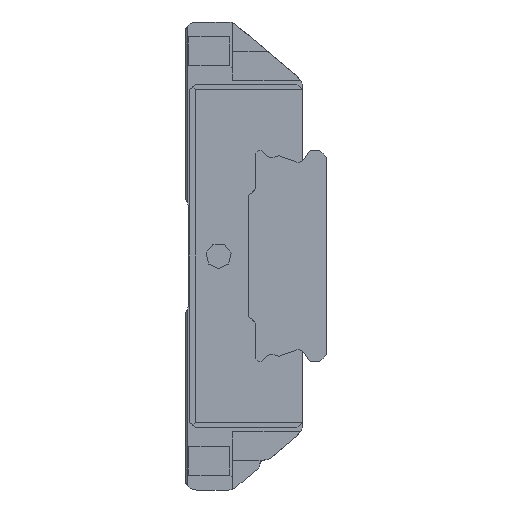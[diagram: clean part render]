
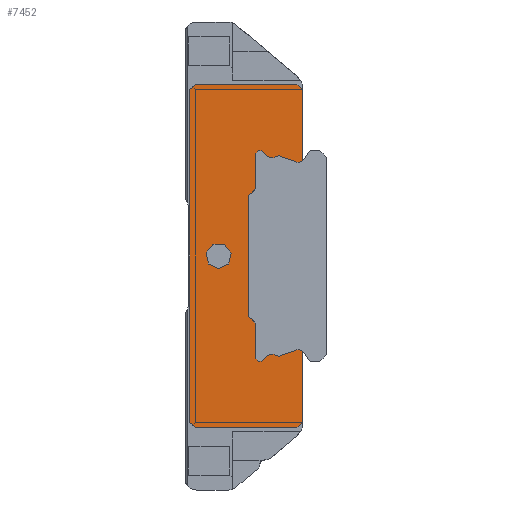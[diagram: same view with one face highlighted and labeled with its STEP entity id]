
A CAD part, left-side view. The second image highlights one B-rep face of the part: STEP entity #7452.
In plain terms, the highlighted planar face has unit normal (-1, 0, 0).
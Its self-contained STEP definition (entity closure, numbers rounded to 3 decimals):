
#447=CIRCLE('',#8390,1.1);
#448=CIRCLE('',#8391,0.5);
#449=CIRCLE('',#8392,0.5);
#450=CIRCLE('',#8393,0.818);
#451=CIRCLE('',#8394,0.2);
#452=CIRCLE('',#8395,0.818);
#453=CIRCLE('',#8396,0.1);
#454=CIRCLE('',#8397,0.1);
#455=CIRCLE('',#8398,0.818);
#456=CIRCLE('',#8399,0.2);
#457=CIRCLE('',#8400,0.818);
#2443=ORIENTED_EDGE('',*,*,#3511,.T.);
#2444=ORIENTED_EDGE('',*,*,#3512,.T.);
#2445=ORIENTED_EDGE('',*,*,#3513,.F.);
#2446=ORIENTED_EDGE('',*,*,#3353,.F.);
#2447=ORIENTED_EDGE('',*,*,#3320,.F.);
#2448=ORIENTED_EDGE('',*,*,#3315,.F.);
#2449=ORIENTED_EDGE('',*,*,#3352,.F.);
#2450=ORIENTED_EDGE('',*,*,#3349,.F.);
#2451=ORIENTED_EDGE('',*,*,#3346,.F.);
#2452=ORIENTED_EDGE('',*,*,#3330,.F.);
#2453=ORIENTED_EDGE('',*,*,#3324,.F.);
#2454=ORIENTED_EDGE('',*,*,#3454,.F.);
#2455=ORIENTED_EDGE('',*,*,#3514,.F.);
#2456=ORIENTED_EDGE('',*,*,#3515,.T.);
#2457=ORIENTED_EDGE('',*,*,#3516,.F.);
#2458=ORIENTED_EDGE('',*,*,#3517,.T.);
#2459=ORIENTED_EDGE('',*,*,#3518,.T.);
#2460=ORIENTED_EDGE('',*,*,#3519,.T.);
#2461=ORIENTED_EDGE('',*,*,#3520,.T.);
#2462=ORIENTED_EDGE('',*,*,#3521,.F.);
#2463=ORIENTED_EDGE('',*,*,#3522,.T.);
#2464=ORIENTED_EDGE('',*,*,#3523,.T.);
#2465=ORIENTED_EDGE('',*,*,#3524,.T.);
#2466=ORIENTED_EDGE('',*,*,#3525,.F.);
#2467=ORIENTED_EDGE('',*,*,#3526,.T.);
#2468=ORIENTED_EDGE('',*,*,#3527,.T.);
#2469=ORIENTED_EDGE('',*,*,#3528,.T.);
#2470=ORIENTED_EDGE('',*,*,#3529,.T.);
#2471=ORIENTED_EDGE('',*,*,#3530,.F.);
#3315=EDGE_CURVE('',#4132,#4133,#4567,.T.);
#3320=EDGE_CURVE('',#4133,#4135,#4572,.T.);
#3324=EDGE_CURVE('',#4138,#4139,#4576,.T.);
#3330=EDGE_CURVE('',#4139,#4142,#4582,.T.);
#3346=EDGE_CURVE('',#4142,#4150,#4598,.T.);
#3349=EDGE_CURVE('',#4150,#4152,#4601,.T.);
#3352=EDGE_CURVE('',#4152,#4132,#4604,.T.);
#3353=EDGE_CURVE('',#4135,#4153,#4605,.T.);
#3454=EDGE_CURVE('',#4229,#4138,#4654,.T.);
#3511=EDGE_CURVE('',#4255,#4255,#447,.T.);
#3512=EDGE_CURVE('',#4256,#4257,#4689,.T.);
#3513=EDGE_CURVE('',#4153,#4257,#448,.T.);
#3514=EDGE_CURVE('',#4258,#4229,#449,.T.);
#3515=EDGE_CURVE('',#4258,#4259,#4690,.T.);
#3516=EDGE_CURVE('',#4260,#4259,#450,.T.);
#3517=EDGE_CURVE('',#4260,#4261,#451,.T.);
#3518=EDGE_CURVE('',#4261,#4262,#4691,.T.);
#3519=EDGE_CURVE('',#4262,#4263,#4692,.T.);
#3520=EDGE_CURVE('',#4263,#4264,#4693,.T.);
#3521=EDGE_CURVE('',#4265,#4264,#452,.T.);
#3522=EDGE_CURVE('',#4265,#4266,#453,.T.);
#3523=EDGE_CURVE('',#4266,#4267,#4694,.T.);
#3524=EDGE_CURVE('',#4267,#4268,#454,.T.);
#3525=EDGE_CURVE('',#4269,#4268,#455,.T.);
#3526=EDGE_CURVE('',#4269,#4270,#4695,.T.);
#3527=EDGE_CURVE('',#4270,#4271,#4696,.T.);
#3528=EDGE_CURVE('',#4271,#4272,#4697,.T.);
#3529=EDGE_CURVE('',#4272,#4273,#456,.T.);
#3530=EDGE_CURVE('',#4256,#4273,#457,.T.);
#4132=VERTEX_POINT('',#12318);
#4133=VERTEX_POINT('',#12320);
#4135=VERTEX_POINT('',#12329);
#4138=VERTEX_POINT('',#12336);
#4139=VERTEX_POINT('',#12338);
#4142=VERTEX_POINT('',#12349);
#4150=VERTEX_POINT('',#12380);
#4152=VERTEX_POINT('',#12386);
#4153=VERTEX_POINT('',#12394);
#4229=VERTEX_POINT('',#12643);
#4255=VERTEX_POINT('',#12785);
#4256=VERTEX_POINT('',#12787);
#4257=VERTEX_POINT('',#12788);
#4258=VERTEX_POINT('',#12791);
#4259=VERTEX_POINT('',#12793);
#4260=VERTEX_POINT('',#12795);
#4261=VERTEX_POINT('',#12797);
#4262=VERTEX_POINT('',#12799);
#4263=VERTEX_POINT('',#12801);
#4264=VERTEX_POINT('',#12803);
#4265=VERTEX_POINT('',#12805);
#4266=VERTEX_POINT('',#12807);
#4267=VERTEX_POINT('',#12809);
#4268=VERTEX_POINT('',#12811);
#4269=VERTEX_POINT('',#12813);
#4270=VERTEX_POINT('',#12815);
#4271=VERTEX_POINT('',#12817);
#4272=VERTEX_POINT('',#12819);
#4273=VERTEX_POINT('',#12821);
#4567=LINE('',#12319,#5001);
#4572=LINE('',#12328,#5006);
#4576=LINE('',#12337,#5010);
#4582=LINE('',#12348,#5016);
#4598=LINE('',#12379,#5032);
#4601=LINE('',#12385,#5035);
#4604=LINE('',#12391,#5038);
#4605=LINE('',#12393,#5039);
#4654=LINE('',#12644,#5088);
#4689=LINE('',#12786,#5123);
#4690=LINE('',#12792,#5124);
#4691=LINE('',#12798,#5125);
#4692=LINE('',#12800,#5126);
#4693=LINE('',#12802,#5127);
#4694=LINE('',#12808,#5128);
#4695=LINE('',#12814,#5129);
#4696=LINE('',#12816,#5130);
#4697=LINE('',#12818,#5131);
#5001=VECTOR('',#10188,1000.);
#5006=VECTOR('',#10197,1000.);
#5010=VECTOR('',#10203,1000.);
#5016=VECTOR('',#10213,1000.);
#5032=VECTOR('',#10243,1000.);
#5035=VECTOR('',#10248,1000.);
#5038=VECTOR('',#10255,1000.);
#5039=VECTOR('',#10258,1000.);
#5088=VECTOR('',#10447,1000.);
#5123=VECTOR('',#10598,1000.);
#5124=VECTOR('',#10603,1000.);
#5125=VECTOR('',#10608,1000.);
#5126=VECTOR('',#10609,1000.);
#5127=VECTOR('',#10610,1000.);
#5128=VECTOR('',#10615,1000.);
#5129=VECTOR('',#10620,1000.);
#5130=VECTOR('',#10621,1000.);
#5131=VECTOR('',#10622,1000.);
#5952=EDGE_LOOP('',(#2443));
#5953=EDGE_LOOP('',(#2444,#2445,#2446,#2447,#2448,#2449,#2450,#2451,#2452,
#2453,#2454,#2455,#2456,#2457,#2458,#2459,#2460,#2461,#2462,#2463,#2464,
#2465,#2466,#2467,#2468,#2469,#2470,#2471));
#6780=FACE_BOUND('',#5952,.T.);
#6781=FACE_BOUND('',#5953,.T.);
#7016=PLANE('',#8389);
#7452=ADVANCED_FACE('',(#6780,#6781),#7016,.F.);
#8389=AXIS2_PLACEMENT_3D('',#12783,#10594,#10595);
#8390=AXIS2_PLACEMENT_3D('',#12784,#10596,#10597);
#8391=AXIS2_PLACEMENT_3D('',#12789,#10599,#10600);
#8392=AXIS2_PLACEMENT_3D('',#12790,#10601,#10602);
#8393=AXIS2_PLACEMENT_3D('',#12794,#10604,#10605);
#8394=AXIS2_PLACEMENT_3D('',#12796,#10606,#10607);
#8395=AXIS2_PLACEMENT_3D('',#12804,#10611,#10612);
#8396=AXIS2_PLACEMENT_3D('',#12806,#10613,#10614);
#8397=AXIS2_PLACEMENT_3D('',#12810,#10616,#10617);
#8398=AXIS2_PLACEMENT_3D('',#12812,#10618,#10619);
#8399=AXIS2_PLACEMENT_3D('',#12820,#10623,#10624);
#8400=AXIS2_PLACEMENT_3D('',#12822,#10625,#10626);
#10188=DIRECTION('',(0.,-1.,0.));
#10197=DIRECTION('',(0.,-0.707,-0.707));
#10203=DIRECTION('',(0.,0.707,-0.707));
#10213=DIRECTION('',(0.,1.,0.));
#10243=DIRECTION('',(0.,0.707,0.707));
#10248=DIRECTION('',(0.,0.,1.));
#10255=DIRECTION('',(0.,-0.707,0.707));
#10258=DIRECTION('',(0.,0.,-1.));
#10447=DIRECTION('',(0.,0.,-1.));
#10594=DIRECTION('',(1.,0.,0.));
#10595=DIRECTION('',(0.,0.,-1.));
#10596=DIRECTION('',(1.,0.,0.));
#10597=DIRECTION('',(0.,0.,-1.));
#10598=DIRECTION('',(0.,-0.943,-0.332));
#10599=DIRECTION('',(1.,0.,0.));
#10600=DIRECTION('',(0.,0.,-1.));
#10601=DIRECTION('',(1.,0.,0.));
#10602=DIRECTION('',(0.,0.,-1.));
#10603=DIRECTION('',(0.,0.943,-0.332));
#10604=DIRECTION('',(1.,0.,0.));
#10605=DIRECTION('',(0.,0.,-1.));
#10606=DIRECTION('',(1.,0.,0.));
#10607=DIRECTION('',(0.,0.,-1.));
#10608=DIRECTION('',(0.,1.,0.));
#10609=DIRECTION('',(0.,0.707,0.707));
#10610=DIRECTION('',(0.,0.,1.));
#10611=DIRECTION('',(1.,0.,0.));
#10612=DIRECTION('',(0.,0.,-1.));
#10613=DIRECTION('',(1.,0.,0.));
#10614=DIRECTION('',(0.,0.,-1.));
#10615=DIRECTION('',(0.,0.,1.));
#10616=DIRECTION('',(1.,0.,0.));
#10617=DIRECTION('',(0.,0.,-1.));
#10618=DIRECTION('',(1.,0.,0.));
#10619=DIRECTION('',(0.,0.,-1.));
#10620=DIRECTION('',(0.,0.,1.));
#10621=DIRECTION('',(0.,-0.707,0.707));
#10622=DIRECTION('',(0.,-1.,0.));
#10623=DIRECTION('',(1.,0.,0.));
#10624=DIRECTION('',(0.,0.,-1.));
#10625=DIRECTION('',(1.,0.,0.));
#10626=DIRECTION('',(0.,0.,-1.));
#12318=CARTESIAN_POINT('',(-18.5,9.17,14.7));
#12319=CARTESIAN_POINT('',(-18.5,9.17,14.7));
#12320=CARTESIAN_POINT('',(-18.5,0.5,14.7));
#12328=CARTESIAN_POINT('',(-18.5,0.5,14.7));
#12329=CARTESIAN_POINT('',(-18.5,0.,14.2));
#12336=CARTESIAN_POINT('',(-18.5,0.,-14.2));
#12337=CARTESIAN_POINT('',(-18.5,0.,-14.2));
#12338=CARTESIAN_POINT('',(-18.5,0.5,-14.7));
#12348=CARTESIAN_POINT('',(-18.5,0.5,-14.7));
#12349=CARTESIAN_POINT('',(-18.5,9.17,-14.7));
#12379=CARTESIAN_POINT('',(-18.5,9.17,-14.7));
#12380=CARTESIAN_POINT('',(-18.5,9.67,-14.2));
#12385=CARTESIAN_POINT('',(-18.5,9.67,-14.2));
#12386=CARTESIAN_POINT('',(-18.5,9.67,14.2));
#12391=CARTESIAN_POINT('',(-18.5,9.67,14.2));
#12393=CARTESIAN_POINT('',(-18.5,0.,14.2));
#12394=CARTESIAN_POINT('',(-18.5,0.,8.13));
#12643=CARTESIAN_POINT('',(-18.5,0.,-8.13));
#12644=CARTESIAN_POINT('',(-18.5,0.,14.2));
#12783=CARTESIAN_POINT('',(-18.5,0.,0.));
#12784=CARTESIAN_POINT('',(-18.5,7.2,0.));
#12785=CARTESIAN_POINT('',(-18.5,7.2,-1.1));
#12786=CARTESIAN_POINT('',(-18.5,2.084,8.585));
#12787=CARTESIAN_POINT('',(-18.5,2.084,8.585));
#12788=CARTESIAN_POINT('',(-18.5,0.502,8.028));
#12789=CARTESIAN_POINT('',(-18.5,0.336,8.5));
#12790=CARTESIAN_POINT('',(-18.5,0.336,-8.5));
#12791=CARTESIAN_POINT('',(-18.5,0.502,-8.028));
#12792=CARTESIAN_POINT('',(-18.5,0.502,-8.028));
#12793=CARTESIAN_POINT('',(-18.5,2.084,-8.585));
#12794=CARTESIAN_POINT('',(-18.5,2.629,-9.195));
#12795=CARTESIAN_POINT('',(-18.5,3.383,-8.878));
#12796=CARTESIAN_POINT('',(-18.5,3.567,-8.8));
#12797=CARTESIAN_POINT('',(-18.5,3.567,-9.));
#12798=CARTESIAN_POINT('',(-18.5,3.567,-9.));
#12799=CARTESIAN_POINT('',(-18.5,3.8,-9.));
#12800=CARTESIAN_POINT('',(-18.5,3.8,-9.));
#12801=CARTESIAN_POINT('',(-18.5,4.,-8.8));
#12802=CARTESIAN_POINT('',(-18.5,4.,-8.8));
#12803=CARTESIAN_POINT('',(-18.5,4.,-5.866));
#12804=CARTESIAN_POINT('',(-18.5,4.792,-6.071));
#12805=CARTESIAN_POINT('',(-18.5,4.532,-5.295));
#12806=CARTESIAN_POINT('',(-18.5,4.5,-5.201));
#12807=CARTESIAN_POINT('',(-18.5,4.6,-5.201));
#12808=CARTESIAN_POINT('',(-18.5,4.6,-5.201));
#12809=CARTESIAN_POINT('',(-18.5,4.6,5.201));
#12810=CARTESIAN_POINT('',(-18.5,4.5,5.201));
#12811=CARTESIAN_POINT('',(-18.5,4.532,5.295));
#12812=CARTESIAN_POINT('',(-18.5,4.792,6.071));
#12813=CARTESIAN_POINT('',(-18.5,4.,5.866));
#12814=CARTESIAN_POINT('',(-18.5,4.,5.866));
#12815=CARTESIAN_POINT('',(-18.5,4.,8.8));
#12816=CARTESIAN_POINT('',(-18.5,4.,8.8));
#12817=CARTESIAN_POINT('',(-18.5,3.8,9.));
#12818=CARTESIAN_POINT('',(-18.5,3.8,9.));
#12819=CARTESIAN_POINT('',(-18.5,3.567,9.));
#12820=CARTESIAN_POINT('',(-18.5,3.567,8.8));
#12821=CARTESIAN_POINT('',(-18.5,3.383,8.878));
#12822=CARTESIAN_POINT('',(-18.5,2.629,9.195));
